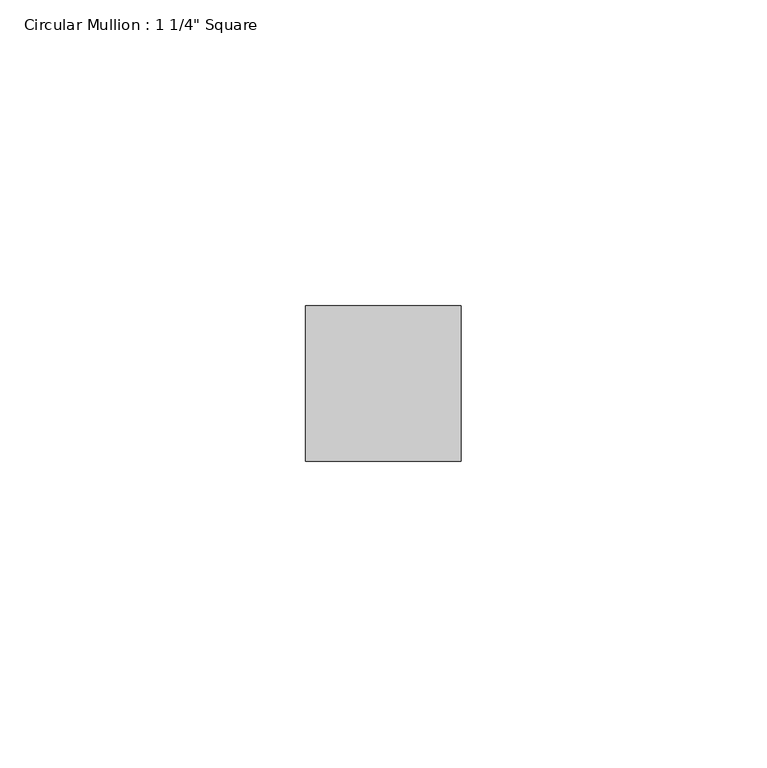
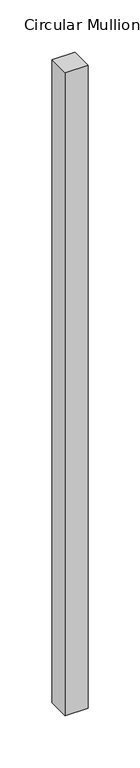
"""IFC4 building model written with IfcOpenShell, lengths in millimetres: member geometry."""

import ifcopenshell
import ifcopenshell.guid

model = None  # the IFC model being written
_history = None  # IfcOwnerHistory: only IFC2X3 demands one
_inside = {}  # id of a spatial element -> (the spatial element, [elements in it])
_under = {}  # id of a project, library or spatial element -> (it, [spatial elements below it])
_declared = {}  # id of a project -> (the project, [libraries it declares])
_typed = {}  # id of a type object -> (the type object, [elements of that type])
_made_of = {}  # id of a material, layer set ... -> (it, [elements and type objects made of it])


def new_model(schema):
    """Start an empty IFC model of exactly this schema.

    Asked for "IFC4X3", IfcOpenShell would pick the latest addendum, in which some entities
    have other attributes; the version numbers below select the first issue.
    IFC2X3 requires an IfcOwnerHistory on every rooted entity: one is made here for all.
    """
    global model, _history
    if schema == "IFC4X3":
        model = ifcopenshell.file(schema_version=(4, 3, 0, 0))
    else:
        model = ifcopenshell.file(schema=schema)
    _inside.clear()
    _under.clear()
    _declared.clear()
    _typed.clear()
    _made_of.clear()
    _history = None
    if model.schema == "IFC2X3":
        org = make("IfcOrganization", Name="unknown")
        user = make(
            "IfcPersonAndOrganization",
            ThePerson=make("IfcPerson", FamilyName="unknown"),
            TheOrganization=org,
        )
        app = make(
            "IfcApplication",
            ApplicationDeveloper=org,
            Version="unknown",
            ApplicationFullName="unknown",
            ApplicationIdentifier="unknown",
        )
        _history = make(
            "IfcOwnerHistory",
            OwningUser=user,
            OwningApplication=app,
            ChangeAction="ADDED",
            CreationDate=0,
        )
    return model


def make(cls, **values):
    """One entity of the class cls with the attributes given. An attribute that is None is left unset."""
    return model.create_entity(
        cls, **{name: value for name, value in values.items() if value is not None}
    )


def rooted(cls, **values):
    """An entity with a GlobalId (a new one), such as an element, a storey or a relation."""
    return make(cls, GlobalId=ifcopenshell.guid.new(), OwnerHistory=_history, **values)


def si_unit(unit_type, name, prefix=None):
    """IfcSIUnit, for example si_unit("LENGTHUNIT", "METRE", prefix="MILLI")."""
    return make("IfcSIUnit", UnitType=unit_type, Prefix=prefix, Name=name)


def assignment(units):
    """IfcUnitAssignment: the units of a project."""
    return None if units is None else make("IfcUnitAssignment", Units=units)


def point(xyz):
    """IfcCartesianPoint."""
    return None if xyz is None else make("IfcCartesianPoint", Coordinates=xyz)


def direction(xyz):
    """IfcDirection."""
    return None if xyz is None else make("IfcDirection", DirectionRatios=xyz)


def frame(location, z_axis=None, x_axis=None):
    """IfcAxis2Placement3D, a coordinate frame: its origin and axes. An axis left out is left unset."""
    return make(
        "IfcAxis2Placement3D",
        Location=point(location),
        Axis=direction(z_axis),
        RefDirection=direction(x_axis),
    )


def origin():
    """The frame at (0, 0, 0) with its axes left unset."""
    return frame((0.0, 0.0, 0.0))


def place(relative_to, where):
    """IfcLocalPlacement: puts the frame where relative to a parent placement (None: the world)."""
    return make(
        "IfcLocalPlacement", PlacementRelTo=relative_to, RelativePlacement=where
    )


def context(
    kind, dimensions, precision=None, world=None, true_north=None, identifier=None
):
    """IfcGeometricRepresentationContext, for example the 3D "Model" context."""
    return make(
        "IfcGeometricRepresentationContext",
        ContextIdentifier=identifier,
        ContextType=kind,
        CoordinateSpaceDimension=dimensions,
        Precision=precision,
        WorldCoordinateSystem=world,
        TrueNorth=true_north,
    )


def project(units=None, contexts=None):
    """IfcProject with its units and contexts."""
    return rooted(
        "IfcProject",
        Name="project",
        RepresentationContexts=contexts,
        UnitsInContext=assignment(units),
    )


def spatial(cls, under=None, at=None, **own):
    """A site, building, storey or space (cls), placed at a placement, below another one or the project."""
    s = rooted(cls, ObjectPlacement=at, **own)
    if under is not None:
        _under.setdefault(under.id(), (under, []))[1].append(s)
    return s


def polyline(points):
    """IfcPolyline through the points."""
    return make("IfcPolyline", Points=[point(p) for p in points])


def outline(outer, holes=None, kind="AREA"):
    """IfcArbitraryClosedProfileDef: a profile drawn as a closed curve; with holes, ...WithVoids."""
    if holes is None:
        return make("IfcArbitraryClosedProfileDef", ProfileType=kind, OuterCurve=outer)
    return make(
        "IfcArbitraryProfileDefWithVoids",
        ProfileType=kind,
        OuterCurve=outer,
        InnerCurves=holes,
    )


def extrude(swept, where, along, depth):
    """IfcExtrudedAreaSolid: the profile swept, set in the frame where, extruded along a direction by depth."""
    return make(
        "IfcExtrudedAreaSolid",
        SweptArea=swept,
        Position=where,
        ExtrudedDirection=direction(along),
        Depth=depth,
    )


def shape(context_of_items, identifier, shape_type, items):
    """IfcShapeRepresentation: the items that make up one representation, for example the "Body"."""
    return make(
        "IfcShapeRepresentation",
        ContextOfItems=context_of_items,
        RepresentationIdentifier=identifier,
        RepresentationType=shape_type,
        Items=items,
    )


def source(mapping_origin, context_of_items, identifier, shape_type, items):
    """IfcRepresentationMap: a shape defined once, which mapped items show again and again."""
    return make(
        "IfcRepresentationMap",
        MappingOrigin=mapping_origin,
        MappedRepresentation=shape(context_of_items, identifier, shape_type, items),
    )


def transform(
    local_origin,
    x_axis=None,
    y_axis=None,
    z_axis=None,
    scale=None,
    scale2=None,
    scale3=None,
    uniform=True,
):
    """IfcCartesianTransformationOperator3D, or its non-uniform kind. x_axis, y_axis, z_axis: its Axis1, 2, 3."""
    if uniform:
        return make(
            "IfcCartesianTransformationOperator3D",
            Axis1=direction(x_axis),
            Axis2=direction(y_axis),
            LocalOrigin=point(local_origin),
            Scale=scale,
            Axis3=direction(z_axis),
        )
    return make(
        "IfcCartesianTransformationOperator3DnonUniform",
        Axis1=direction(x_axis),
        Axis2=direction(y_axis),
        LocalOrigin=point(local_origin),
        Scale=scale,
        Axis3=direction(z_axis),
        Scale2=scale2,
        Scale3=scale3,
    )


def mapped(mapping_source, mapping_target):
    """IfcMappedItem: shows the shape of a source again, moved by a transform."""
    return make(
        "IfcMappedItem", MappingSource=mapping_source, MappingTarget=mapping_target
    )


def made_of(thing, what):
    """Note that an element or type object is made of a material, layer set ...; save() writes the relation."""
    if what is not None:
        _made_of.setdefault(what.id(), (what, []))[1].append(thing)
    return thing


def element(
    cls,
    number,
    at=None,
    inside=None,
    cuts=None,
    type_object=None,
    material=None,
    context=None,
    identifier="Body",
    shape_type=None,
    held_by="IfcProductDefinitionShape",
    body=None,
    shapes=None,
    **own,
):
    """One element of the class cls, such as IfcWall. Its Tag is "e" and its number.

    at: its placement. inside: the storey or other place that contains it. cuts: it is an
    opening in that element (IfcRelVoidsElement). A single representation is given by context,
    identifier, shape_type and body (its items); several are given by shapes. held_by: the class
    of the entity that holds the representations. save() writes the other relations.
    """
    e = rooted(cls, Tag="e%d" % number, ObjectPlacement=at, **own)
    if body is not None:
        shapes = [shape(context, identifier, shape_type, body)]
    if shapes is not None:
        e.Representation = make(held_by, Representations=shapes)
    if inside is not None:
        _inside.setdefault(inside.id(), (inside, []))[1].append(e)
    if cuts is not None:
        rooted(
            "IfcRelVoidsElement", RelatingBuildingElement=cuts, RelatedOpeningElement=e
        )
    if type_object is not None:
        _typed.setdefault(type_object.id(), (type_object, []))[1].append(e)
    return made_of(e, material)


def aggregate(whole, parts):
    """IfcRelAggregates: a whole, such as a stair, and the parts it consists of."""
    return rooted("IfcRelAggregates", RelatingObject=whole, RelatedObjects=parts)


def save(model, path):
    """Write the relations noted so far, then the file.

    IfcRelAggregates (storeys below a building ...), IfcRelContainedInSpatialStructure (elements
    in a storey), IfcRelDefinesByType, IfcRelAssociatesMaterial and IfcRelDeclares: one each for
    every whole, place, type object, material and project.
    """
    for whole, parts in _under.values():
        aggregate(whole, parts)
    for where, things in _inside.values():
        rooted(
            "IfcRelContainedInSpatialStructure",
            RelatedElements=things,
            RelatingStructure=where,
        )
    for kind, things in _typed.values():
        rooted("IfcRelDefinesByType", RelatedObjects=things, RelatingType=kind)
    for what, things in _made_of.values():
        rooted("IfcRelAssociatesMaterial", RelatedObjects=things, RelatingMaterial=what)
    for by, libraries in _declared.values():
        rooted("IfcRelDeclares", RelatingContext=by, RelatedDefinitions=libraries)
    model.write(path)


def member_898f03bf(model_context):
    return source(origin(), model_context, "Body", "SweptSolid", [
        extrude(outline(polyline([(0.0, 12.7), (0.0, -12.7), (-25.4, -12.7), (-25.4, 12.7), (0.0, 12.7)])), frame((0.0, 0.0, -752.475), z_axis=(0.0, 0.0, 1.0), x_axis=(1.0, 0.0, 0.0)), (0.0, 0.0, 1.0), 752.475),
    ])


if __name__ == "__main__":
    model = new_model("IFC4")
    model_context = context("Model", 3, world=origin())
    ifc_project = project(units=[si_unit("LENGTHUNIT", "METRE", prefix="MILLI")], contexts=[model_context])
    site = spatial("IfcSite", under=ifc_project)
    building = spatial("IfcBuilding", under=site)
    placement = place(None, origin())
    member_shape = member_898f03bf(model_context)
    element("IfcMember", 1, ObjectType="Circular Mullion : 1 1/4\" Square", at=placement, inside=building, context=model_context, shape_type="MappedRepresentation", body=[
        mapped(member_shape, transform((0.0, 0.0, 0.0), x_axis=(1.0, 0.0, 0.0), y_axis=(0.0, 1.0, 0.0), z_axis=(0.0, 0.0, 1.0))),
    ])
    save(model, "model.ifc")
